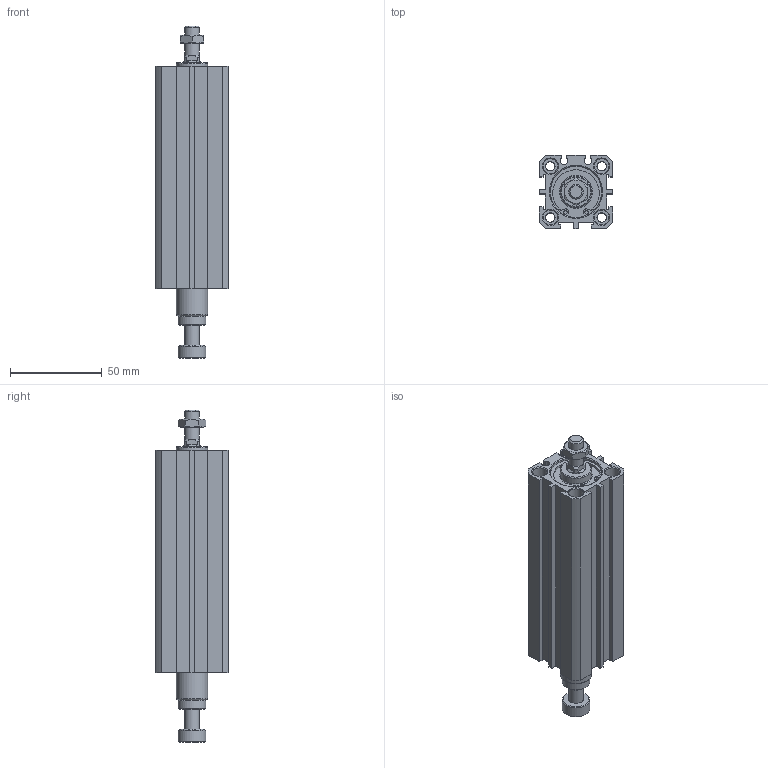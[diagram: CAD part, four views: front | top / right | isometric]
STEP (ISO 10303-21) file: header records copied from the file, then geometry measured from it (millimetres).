
FILE_DESCRIPTION((''),'2;1');
FILE_NAME('I:\3D電子目錄\氣缸\JDAR\JDAR-BS\JDAR25-BS\JDAR25x90-BS.stp','2007-05-05T11:33:06',('662F206'),(''),'Autodesk Inventor 11','Autodesk Inventor 11','');
FILE_SCHEMA(('AUTOMOTIVE_DESIGN { 1 0 10303 214 1 1 1 1 }'));
Length unit declared in the file: millimetre
Products named in the file (3): JDAR25-BS; R 形環 28
Assembly tree (3 placements, depth 2):
  JDAR25-BS
    JDAR25-BS
    R 形環 28  x2
Bounding box: 40 x 40 x 181.1 mm (x, y, z)
Volume: 162932.2 mm3; surface area: 43791.1 mm2
Topology: 3 solids, 3 shells, 175 faces, 406 edges, 263 vertices
Faces by surface type: plane 94, cylinder 50, cone 23, bspline 6, torus 2
Full cylindrical faces by diameter (mm): 1.5 x2, 1.9 x4, 5.1 x4, 8 x11, 10 x1, 15 x2, 17 x2, 28 x4, 29.4 x2
Entity records: 4479 total; most frequent: CARTESIAN_POINT 889, DIRECTION 742, ORIENTED_EDGE 630, EDGE_CURVE 315, AXIS2_PLACEMENT_3D 284, EDGE_LOOP 256, VERTEX_POINT 237, VECTOR 174
